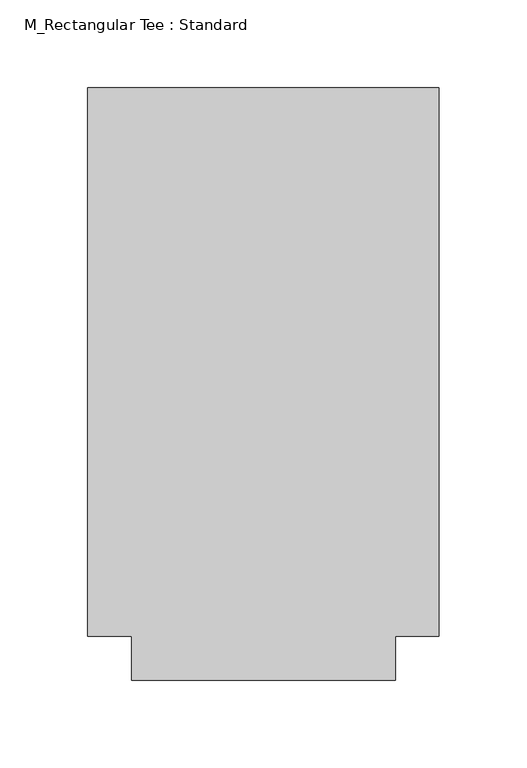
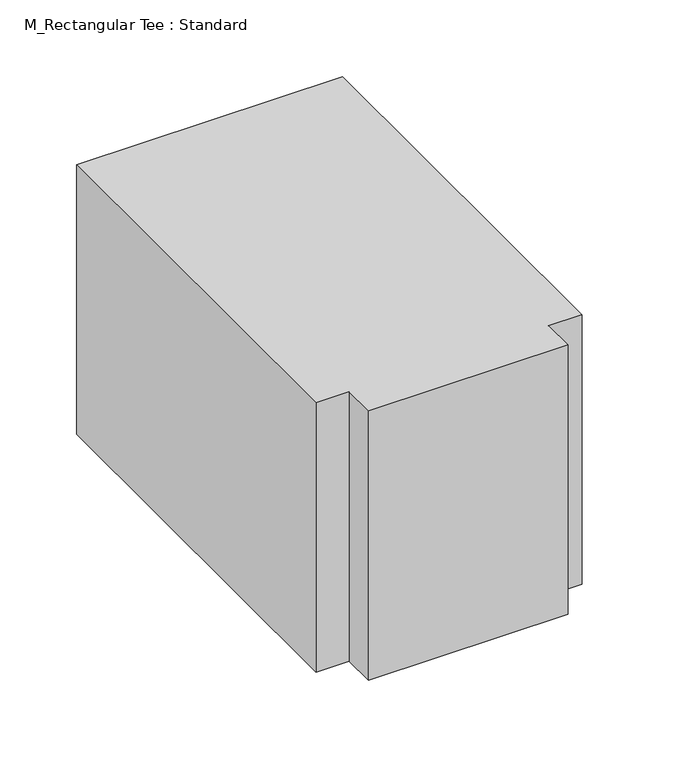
"""IFC4 building model written with IfcOpenShell, lengths in millimetres: duct fitting geometry, M_Rectangular Tee : Standard."""

from ifc_helpers import new_model, si_unit, frame, origin, place, context, project, spatial, polyline, outline, extrude, source, transform, mapped, element, save


def m_rectangular_tee_standard_e86e679a(model_context):
    return source(origin(), model_context, "Body", "SweptSolid", [
        extrude(outline(polyline([(-100.0, -155.9375), (-100.0, 155.9375), (100.0, 155.9375), (100.0, -155.9375), (75.0, -155.9375), (75.0, -180.9375), (-75.0, -180.9375), (-75.0, -155.9375), (-100.0, -155.9375)])), frame((0.0, 0.0, -107.15), z_axis=(0.0, 0.0, 1.0), x_axis=(1.0, 0.0, 0.0)), (0.0, 0.0, 1.0), 214.3),
    ])


if __name__ == "__main__":
    model = new_model("IFC4")
    model_context = context("Model", 3, world=origin())
    ifc_project = project(units=[si_unit("LENGTHUNIT", "METRE", prefix="MILLI")], contexts=[model_context])
    site = spatial("IfcSite", under=ifc_project)
    building = spatial("IfcBuilding", under=site)
    placement = place(None, origin())
    m_rectangular_tee_standard_shape = m_rectangular_tee_standard_e86e679a(model_context)
    element("IfcDuctFitting", 1, ObjectType="M_Rectangular Tee : Standard", at=placement, inside=building, context=model_context, shape_type="MappedRepresentation", body=[
        mapped(m_rectangular_tee_standard_shape, transform((0.0, 0.0, 0.0), x_axis=(1.0, 0.0, 0.0), y_axis=(0.0, 1.0, 0.0), z_axis=(0.0, 0.0, 1.0))),
    ])
    save(model, "model.ifc")
